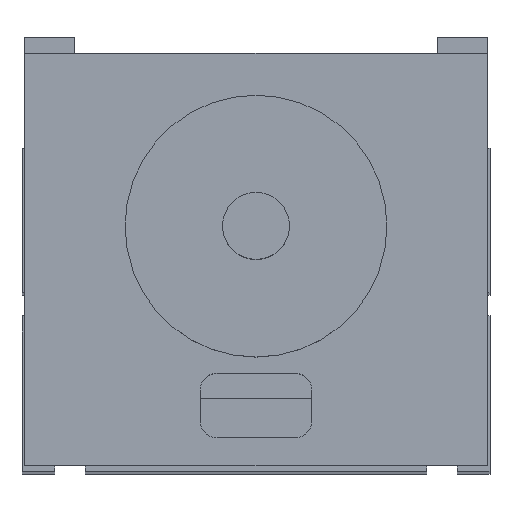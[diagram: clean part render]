
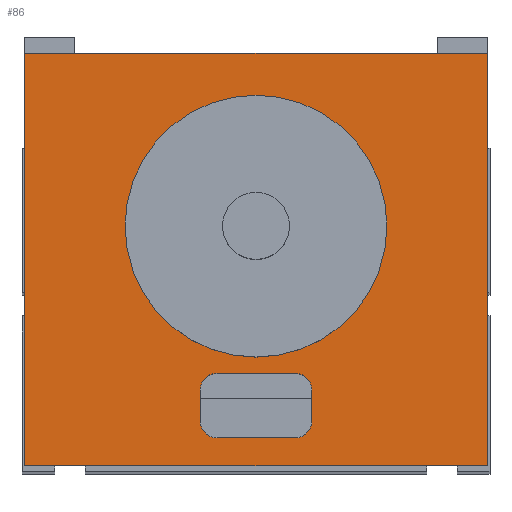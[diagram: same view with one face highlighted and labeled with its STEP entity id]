
A CAD part, top view. The second image highlights one B-rep face of the part: STEP entity #86.
In plain terms, the highlighted planar face has unit normal (0, 0, 1).
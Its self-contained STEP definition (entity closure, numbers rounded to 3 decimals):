
#82 = VERTEX_POINT ( 'NONE', #2468 ) ;
#83 = VERTEX_POINT ( 'NONE', #2467 ) ;
#85 = EDGE_CURVE ( 'NONE', #83, #1069, #2457, .T. ) ;
#86 = ADVANCED_FACE ( 'NONE', ( #2463, #2449 ), #2461, .F. ) ;
#97 = ORIENTED_EDGE ( 'NONE', *, *, #85, .T. ) ;
#101 = ORIENTED_EDGE ( 'NONE', *, *, #5496, .T. ) ;
#103 = EDGE_CURVE ( 'NONE', #82, #1329, #2491, .T. ) ;
#104 = ORIENTED_EDGE ( 'NONE', *, *, #1077, .T. ) ;
#105 = EDGE_LOOP ( 'NONE', ( #97, #104, #101, #1800 ) ) ;
#106 = ORIENTED_EDGE ( 'NONE', *, *, #1048, .F. ) ;
#738 = EDGE_CURVE ( 'NONE', #742, #1055, #4353, .T. ) ;
#742 = VERTEX_POINT ( 'NONE', #4345 ) ;
#803 = ORIENTED_EDGE ( 'NONE', *, *, #1097, .F. ) ;
#1048 = EDGE_CURVE ( 'NONE', #1055, #1331, #4871, .T. ) ;
#1055 = VERTEX_POINT ( 'NONE', #4864 ) ;
#1062 = ORIENTED_EDGE ( 'NONE', *, *, #738, .F. ) ;
#1064 = ORIENTED_EDGE ( 'NONE', *, *, #1319, .F. ) ;
#1069 = VERTEX_POINT ( 'NONE', #4853 ) ;
#1075 = VERTEX_POINT ( 'NONE', #4898 ) ;
#1077 = EDGE_CURVE ( 'NONE', #1069, #1075, #4895, .T. ) ;
#1079 = EDGE_CURVE ( 'NONE', #1272, #82, #4904, .T. ) ;
#1080 = ORIENTED_EDGE ( 'NONE', *, *, #1095, .F. ) ;
#1083 = ORIENTED_EDGE ( 'NONE', *, *, #1079, .F. ) ;
#1086 = ORIENTED_EDGE ( 'NONE', *, *, #1348, .F. ) ;
#1092 = ORIENTED_EDGE ( 'NONE', *, *, #103, .F. ) ;
#1095 = EDGE_CURVE ( 'NONE', #1329, #1353, #4931, .T. ) ;
#1097 = EDGE_CURVE ( 'NONE', #1358, #742, #4872, .T. ) ;
#1272 = VERTEX_POINT ( 'NONE', #5197 ) ;
#1319 = EDGE_CURVE ( 'NONE', #1331, #1272, #5292, .T. ) ;
#1329 = VERTEX_POINT ( 'NONE', #5293 ) ;
#1331 = VERTEX_POINT ( 'NONE', #5287 ) ;
#1348 = EDGE_CURVE ( 'NONE', #1353, #1358, #5367, .T. ) ;
#1353 = VERTEX_POINT ( 'NONE', #5358 ) ;
#1358 = VERTEX_POINT ( 'NONE', #5362 ) ;
#1800 = ORIENTED_EDGE ( 'NONE', *, *, #1805, .T. ) ;
#1805 = EDGE_CURVE ( 'NONE', #5501, #83, #3168, .T. ) ;
#1873 = EDGE_LOOP ( 'NONE', ( #106, #1062, #803, #1086, #1080, #1092, #1083, #1064 ) ) ;
#2449 = FACE_BOUND ( 'NONE', #1873, .T. ) ;
#2451 = CARTESIAN_POINT ( 'NONE',  ( 0., 74., 30. ) ) ;
#2454 = DIRECTION ( 'NONE',  ( 0., -1., 0. ) ) ;
#2455 = VECTOR ( 'NONE', #2454, 1000. ) ;
#2456 = CARTESIAN_POINT ( 'NONE',  ( 0., 0., 30. ) ) ;
#2457 = LINE ( 'NONE', #2456, #2455 ) ;
#2458 = DIRECTION ( 'NONE',  ( -1., 0., 0. ) ) ;
#2461 = PLANE ( 'NONE',  #2473 ) ;
#2463 = FACE_OUTER_BOUND ( 'NONE', #105, .T. ) ;
#2466 = DIRECTION ( 'NONE',  ( 0., 0., -1. ) ) ;
#2467 = CARTESIAN_POINT ( 'NONE',  ( 0., 74., 30. ) ) ;
#2468 = CARTESIAN_POINT ( 'NONE',  ( 34.5, 5., 30. ) ) ;
#2473 = AXIS2_PLACEMENT_3D ( 'NONE', #2451, #2466, #2458 ) ;
#2487 = VECTOR ( 'NONE', #2551, 1000. ) ;
#2488 = CARTESIAN_POINT ( 'NONE',  ( 34.5, 5., 30. ) ) ;
#2491 = LINE ( 'NONE', #2488, #2487 ) ;
#2551 = DIRECTION ( 'NONE',  ( 1., 0., 0. ) ) ;
#3163 = DIRECTION ( 'NONE',  ( -1., 0., 0. ) ) ;
#3164 = VECTOR ( 'NONE', #3163, 1000. ) ;
#3168 = LINE ( 'NONE', #3170, #3164 ) ;
#3170 = CARTESIAN_POINT ( 'NONE',  ( 0., 74., 30. ) ) ;
#4109 = DIRECTION ( 'NONE',  ( 0., 1., 0. ) ) ;
#4110 = VECTOR ( 'NONE', #4109, 1000. ) ;
#4111 = CARTESIAN_POINT ( 'NONE',  ( 83., 0., 30. ) ) ;
#4114 = CARTESIAN_POINT ( 'NONE',  ( 83., 74., 30. ) ) ;
#4115 = LINE ( 'NONE', #4111, #4110 ) ;
#4342 = DIRECTION ( 'NONE',  ( -1., 0., 0. ) ) ;
#4343 = VECTOR ( 'NONE', #4342, 1000. ) ;
#4344 = CARTESIAN_POINT ( 'NONE',  ( 34.5, 16.6, 30. ) ) ;
#4345 = CARTESIAN_POINT ( 'NONE',  ( 48.5, 16.6, 30. ) ) ;
#4353 = LINE ( 'NONE', #4344, #4343 ) ;
#4818 = CARTESIAN_POINT ( 'NONE',  ( 34.5, 13.6, 30. ) ) ;
#4819 = AXIS2_PLACEMENT_3D ( 'NONE', #4818, #4862, #4861 ) ;
#4840 = AXIS2_PLACEMENT_3D ( 'NONE', #4897, #4887, #4886 ) ;
#4853 = CARTESIAN_POINT ( 'NONE',  ( 0., 0., 30. ) ) ;
#4861 = DIRECTION ( 'NONE',  ( -1., 0., 0. ) ) ;
#4862 = DIRECTION ( 'NONE',  ( 0., 0., 1. ) ) ;
#4864 = CARTESIAN_POINT ( 'NONE',  ( 34.5, 16.6, 30. ) ) ;
#4871 = CIRCLE ( 'NONE', #4819, 3. ) ;
#4872 = CIRCLE ( 'NONE', #4935, 3. ) ;
#4886 = DIRECTION ( 'NONE',  ( 1., 0., 0. ) ) ;
#4887 = DIRECTION ( 'NONE',  ( 0., 0., 1. ) ) ;
#4891 = DIRECTION ( 'NONE',  ( 1., 0., 0. ) ) ;
#4892 = VECTOR ( 'NONE', #4891, 1000. ) ;
#4893 = CARTESIAN_POINT ( 'NONE',  ( 0., 0., 30. ) ) ;
#4895 = LINE ( 'NONE', #4893, #4892 ) ;
#4897 = CARTESIAN_POINT ( 'NONE',  ( 34.5, 8., 30. ) ) ;
#4898 = CARTESIAN_POINT ( 'NONE',  ( 83., 0., 30. ) ) ;
#4904 = CIRCLE ( 'NONE', #4840, 3. ) ;
#4915 = DIRECTION ( 'NONE',  ( 1., 0., 0. ) ) ;
#4916 = DIRECTION ( 'NONE',  ( 0., 0., 1. ) ) ;
#4917 = CARTESIAN_POINT ( 'NONE',  ( 48.5, 13.6, 30. ) ) ;
#4923 = DIRECTION ( 'NONE',  ( -1., 0., 0. ) ) ;
#4924 = DIRECTION ( 'NONE',  ( 0., 0., 1. ) ) ;
#4925 = CARTESIAN_POINT ( 'NONE',  ( 48.5, 8., 30. ) ) ;
#4928 = AXIS2_PLACEMENT_3D ( 'NONE', #4925, #4924, #4923 ) ;
#4931 = CIRCLE ( 'NONE', #4928, 3. ) ;
#4935 = AXIS2_PLACEMENT_3D ( 'NONE', #4917, #4916, #4915 ) ;
#5197 = CARTESIAN_POINT ( 'NONE',  ( 31.5, 8., 30. ) ) ;
#5287 = CARTESIAN_POINT ( 'NONE',  ( 31.5, 13.6, 30. ) ) ;
#5289 = DIRECTION ( 'NONE',  ( 0., -1., 0. ) ) ;
#5290 = VECTOR ( 'NONE', #5289, 1000. ) ;
#5291 = CARTESIAN_POINT ( 'NONE',  ( 31.5, 8., 30. ) ) ;
#5292 = LINE ( 'NONE', #5291, #5290 ) ;
#5293 = CARTESIAN_POINT ( 'NONE',  ( 48.5, 5., 30. ) ) ;
#5358 = CARTESIAN_POINT ( 'NONE',  ( 51.5, 8., 30. ) ) ;
#5362 = CARTESIAN_POINT ( 'NONE',  ( 51.5, 13.6, 30. ) ) ;
#5364 = DIRECTION ( 'NONE',  ( 0., 1., 0. ) ) ;
#5365 = VECTOR ( 'NONE', #5364, 1000. ) ;
#5366 = CARTESIAN_POINT ( 'NONE',  ( 51.5, 8., 30. ) ) ;
#5367 = LINE ( 'NONE', #5366, #5365 ) ;
#5496 = EDGE_CURVE ( 'NONE', #1075, #5501, #4115, .T. ) ;
#5501 = VERTEX_POINT ( 'NONE', #4114 ) ;
